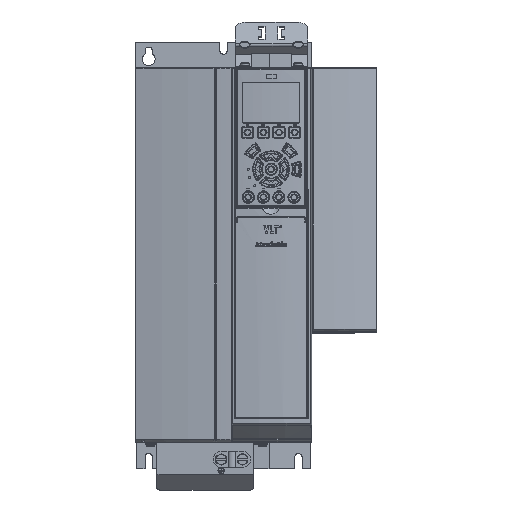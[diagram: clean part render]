
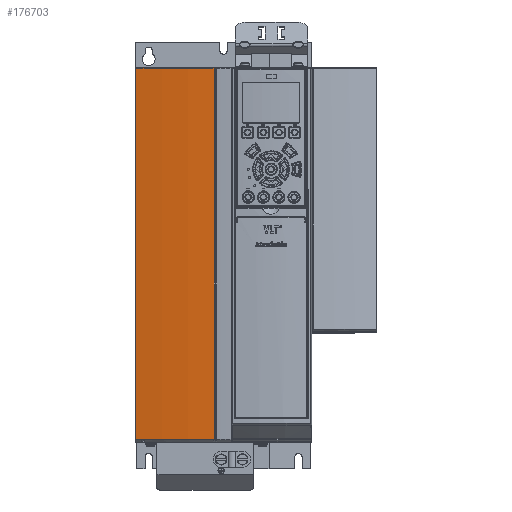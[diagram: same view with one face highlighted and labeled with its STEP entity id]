
A CAD part, top view. The second image highlights one B-rep face of the part: STEP entity #176703.
In plain terms, the highlighted cylindrical face has radius 574.02 mm (diameter 1148.04 mm), a partial arc.
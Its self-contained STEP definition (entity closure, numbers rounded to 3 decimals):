
#33137=CARTESIAN_POINT('',(-82.111,174.5,232.048));
#75358=DIRECTION('',(0.,-1.,0.));
#75359=VECTOR('',#75358,346.896);
#75360=CARTESIAN_POINT('',(-82.111,174.5,232.048));
#75361=LINE('',#75360,#75359);
#75365=CARTESIAN_POINT('',(44.923,174.5,-327.738));
#75366=DIRECTION('',(0.,1.,0.));
#75367=DIRECTION('',(-0.221,0.,0.975));
#75368=AXIS2_PLACEMENT_3D('',#75365,#75366,#75367);
#75373=DIRECTION('',(0.,1.,0.));
#75374=VECTOR('',#75373,346.896);
#75375=CARTESIAN_POINT('',(-8.928,-172.396,
243.75));
#75376=LINE('',#75375,#75374);
#75380=CARTESIAN_POINT('',(44.923,-172.396,
-327.738));
#75381=DIRECTION('',(0.,1.,0.));
#75382=DIRECTION('',(-0.221,0.,0.975));
#75383=AXIS2_PLACEMENT_3D('',#75380,#75381,#75382);
#75397=CARTESIAN_POINT('',(-8.928,174.5,
243.75));
#85579=VERTEX_POINT('',#75397);
#85583=CARTESIAN_POINT('',(-8.928,-172.396,
243.75));
#85584=VERTEX_POINT('',#85583);
#85591=CARTESIAN_POINT('',(-82.111,-172.396,
232.048));
#85592=VERTEX_POINT('',#85591);
#86539=VERTEX_POINT('',#33137);
#176691=CARTESIAN_POINT('',(44.923,-175.,-327.738));
#176692=DIRECTION('',(0.,1.,0.));
#176693=DIRECTION('',(0.,0.,1.));
#176694=AXIS2_PLACEMENT_3D('',#176691,#176692,#176693);
#176695=CYLINDRICAL_SURFACE('',#176694,574.02);
#176696=ORIENTED_EDGE('',*,*,#124722,.F.);
#176698=ORIENTED_EDGE('',*,*,#176697,.T.);
#176699=ORIENTED_EDGE('',*,*,#176681,.F.);
#176700=ORIENTED_EDGE('',*,*,#124646,.F.);
#176701=EDGE_LOOP('',(#176696,#176698,#176699,#176700));
#176702=FACE_OUTER_BOUND('',#176701,.F.);
#176703=ADVANCED_FACE('',(#176702),#176695,.T.);
#75369=CIRCLE('',#75368,574.02);
#75384=CIRCLE('',#75383,574.02);
#124646=EDGE_CURVE('',#85592,#85584,#75384,.T.);
#124722=EDGE_CURVE('',#86539,#85592,#75361,.T.);
#176681=EDGE_CURVE('',#85584,#85579,#75376,.T.);
#176697=EDGE_CURVE('',#86539,#85579,#75369,.T.);
